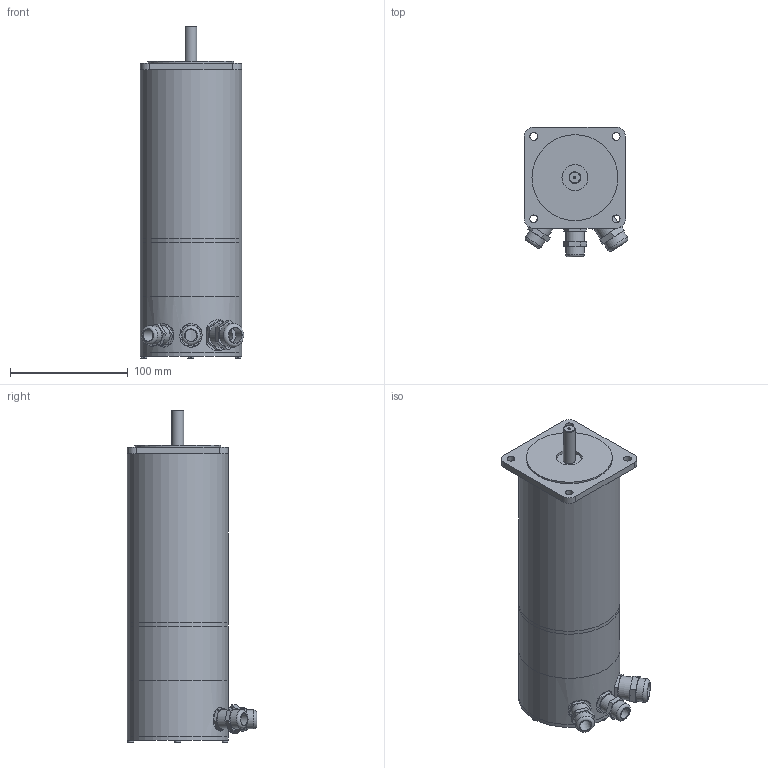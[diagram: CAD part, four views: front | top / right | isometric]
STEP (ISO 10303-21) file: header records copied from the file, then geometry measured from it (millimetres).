
FILE_DESCRIPTION((''),'2;1');
FILE_NAME('C:\Users\Reinhard\Documents\Inventor\Testschrittmotor\SM87\SM87.4-BH200-KV.stp','2012-11-14T20:35:40',('Reinhard'),(''),'Autodesk Inventor 2012','Autodesk Inventor 2012','');
FILE_SCHEMA(('CONFIG_CONTROL_DESIGN'));
Length unit declared in the file: millimetre
Products named in the file (1): SM87
Bounding box: 87.8 x 110 x 282 mm (x, y, z)
Volume: 241782.4 mm3; surface area: 174067.1 mm2
Topology: 2 solids, 3 shells, 166 faces, 378 edges, 248 vertices
Faces by surface type: plane 106, cylinder 55, torus 3, cone 2
Full cylindrical faces by diameter (mm): 2 x1, 5 x4, 6.6 x4, 10 x3, 12 x3, 13 x2, 15 x1, 16 x4, 18.376 x1, 20 x3, 22 x1, 73 x1, 78 x2, 82 x2, 86 x5
Entity records: 4581 total; most frequent: CARTESIAN_POINT 938, DIRECTION 750, ORIENTED_EDGE 652, EDGE_CURVE 326, AXIS2_PLACEMENT_3D 280, EDGE_LOOP 254, VERTEX_POINT 238, VECTOR 190
